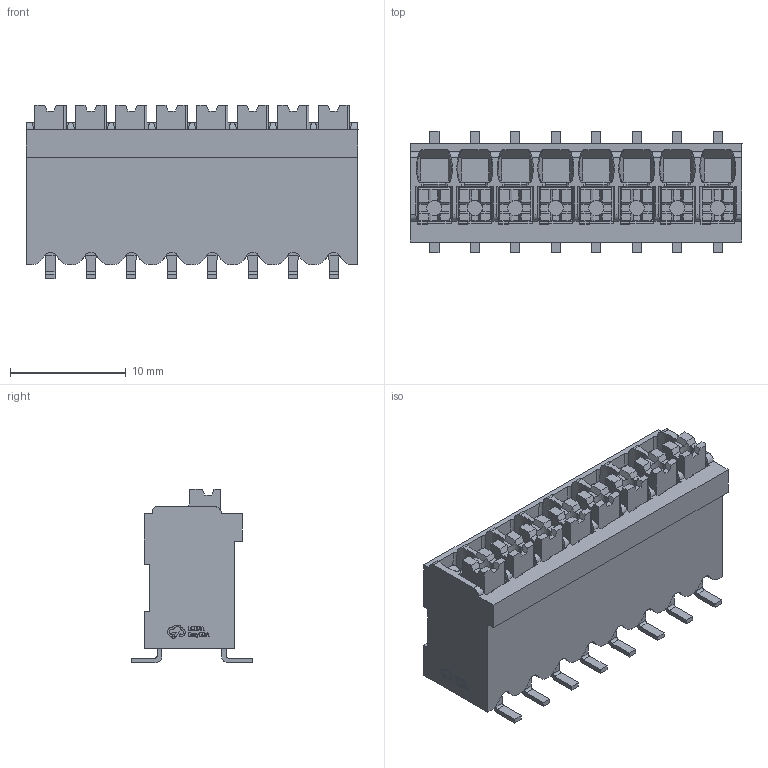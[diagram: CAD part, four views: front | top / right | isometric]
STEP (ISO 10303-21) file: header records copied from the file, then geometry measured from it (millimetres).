
FILE_DESCRIPTION (( 'STEP AP214' ), '1' );
FILE_NAME ('CONN-SMD_JL212V-SMT-35008BP1.STEP', '2024-11-01T08:20:33', ( 'PC' ), ( 'Microsoft' ), 'SwSTEP 2.0', 'SolidWorks 2020', '' );
FILE_SCHEMA (( 'AUTOMOTIVE_DESIGN' ));
Length unit declared in the file: millimetre
Products named in the file (1): CONN-SMD_JL212V-SMT-35008BP1
Bounding box: 28.71 x 10.5 x 15 mm (x, y, z)
Volume: 2338.1 mm3; surface area: 2519.7 mm2
Topology: 1 solids, 1 shells, 1114 faces, 3196 edges, 2111 vertices
Faces by surface type: plane 805, cylinder 162, bspline 114, cone 33
Entity records: 50627 total; most frequent: CARTESIAN_POINT 10391, ORIENTED_EDGE 6392, DIRECTION 4920, EDGE_CURVE 3196, VECTOR 2254, LINE 2254, VERTEX_POINT 2111, AXIS2_PLACEMENT_3D 1333
